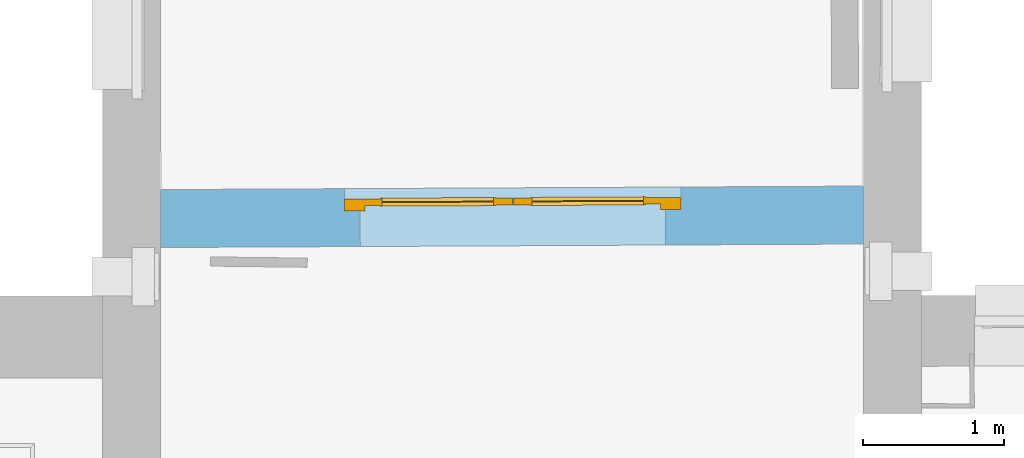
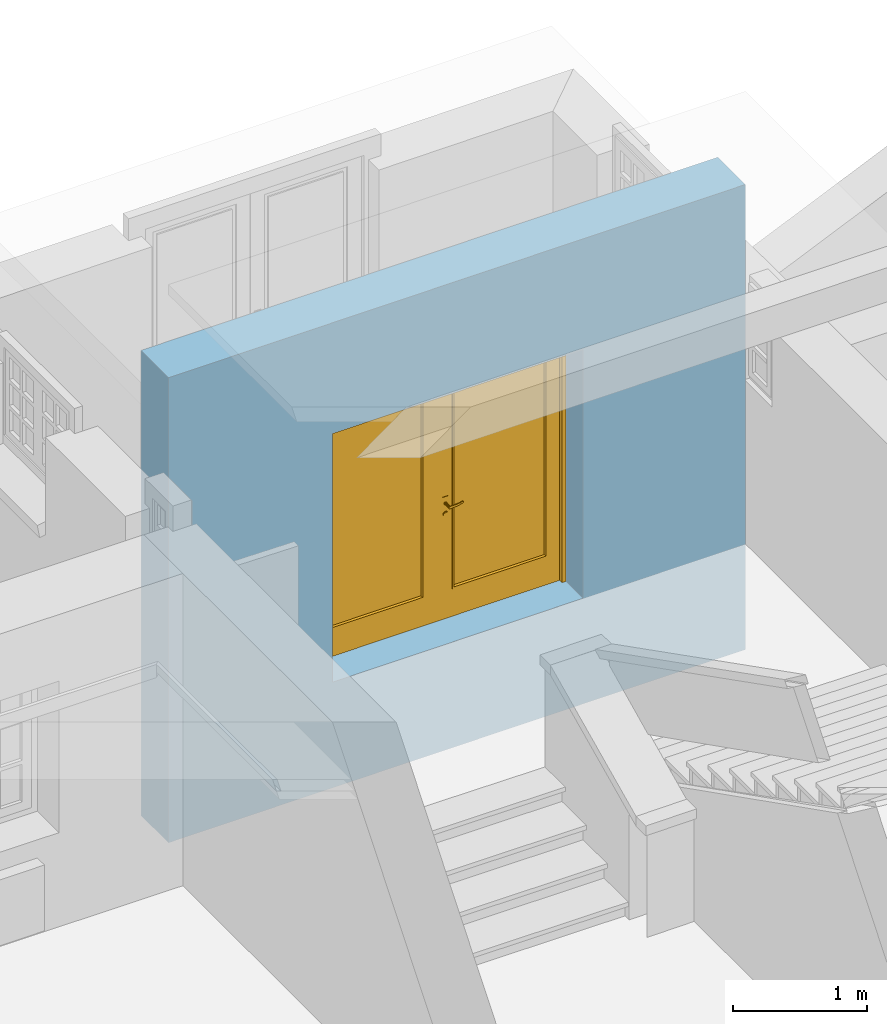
# One storey, part 93 of 196: 1 door, 1 opening, plus 1 element that does not belong to this part.
"""IFC2X3 building model written with IfcOpenShell, lengths in metres."""

from ifc_helpers import new_model, entity, si_unit, converted_unit, derived_unit, money_unit, direction, frame, origin_with_axes, origin_2d_with_axis, place, context, subcontext, project, spatial, polyline, rectangle, outline, extrude, open_shell, faceted_brep, surface_model, material, layer, layer_set, layer_usage, type_object, element, fill, save


model = new_model("IFC2X3")

# Units and contexts
model_context = context("Model", 3, precision=1e-05, world=origin_with_axes(), true_north=direction((0.0, 1.0)))
body_context = subcontext(model_context, "Body", "Model", "MODEL_VIEW")
ifc_project = project(units=[si_unit("LENGTHUNIT", "METRE"), si_unit("AREAUNIT", "SQUARE_METRE"), si_unit("VOLUMEUNIT", "CUBIC_METRE"), converted_unit("PLANEANGLEUNIT", "DEGREE", entity("IfcPlaneAngleMeasure", 0.0174532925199), si_unit("PLANEANGLEUNIT", "RADIAN"), dimensions=[0, 0, 0, 0, 0, 0, 0]), money_unit("EUR"), converted_unit("TIMEUNIT", "Year", entity("IfcTimeMeasure", 31556926.0), si_unit("TIMEUNIT", "SECOND"), dimensions=[0, 0, 1, 0, 0, 0, 0]), si_unit("MASSUNIT", "GRAM", prefix="KILO"), si_unit("THERMODYNAMICTEMPERATUREUNIT", "DEGREE_CELSIUS"), si_unit("LUMINOUSINTENSITYUNIT", "LUMEN"), si_unit("ENERGYUNIT", "JOULE", prefix="MEGA"), derived_unit("THERMALCONDUCTANCEUNIT", [(si_unit("POWERUNIT", "WATT"), 1), (si_unit("LENGTHUNIT", "METRE"), -1), (si_unit("THERMODYNAMICTEMPERATUREUNIT", "KELVIN"), -1)]), derived_unit("SPECIFICHEATCAPACITYUNIT", [(si_unit("ENERGYUNIT", "JOULE"), 1), (si_unit("MASSUNIT", "GRAM", prefix="KILO"), -1), (si_unit("THERMODYNAMICTEMPERATUREUNIT", "KELVIN"), -1)]), derived_unit("MASSDENSITYUNIT", [(si_unit("MASSUNIT", "GRAM", prefix="KILO"), 1), (si_unit("VOLUMEUNIT", "CUBIC_METRE"), -1)])], contexts=[model_context])

# Site, building, storey
site_placement = place(None, origin_with_axes())
site = spatial("IfcSite", under=ifc_project, at=site_placement, Name="Gelände", CompositionType="ELEMENT")
building_placement = place(site_placement, origin_with_axes())
building = spatial("IfcBuilding", under=site, at=building_placement, Name="Gebäude", CompositionType="ELEMENT")
storey_placement = place(building_placement, frame((0.0, 0.0, -3.0), z_axis=(0.0, 0.0, 1.0), x_axis=(1.0, 0.0, 0.0)))
storey = spatial("IfcBuildingStorey", under=building, at=storey_placement, Name="KELLERGESCHOSS", CompositionType="ELEMENT", Elevation=-3.0)

# Wall, opening, door
ifc_material = material(Name="05_ALLGEMEIN - TRAGENDE BAUTEILE")
ifc_layer = layer(ifc_material, 0.41, ventilated="UNKNOWN")
ifc_layer_set = layer_set([ifc_layer], Name="05_ALLGEMEIN - TRAGENDE BAUTEILE 0.41")
ifc_layer_usage = layer_usage(ifc_layer_set, "AXIS2", "NEGATIVE", 0.0)
wall_type = type_object("IfcWallType", Name="05_ALLGEMEIN - TRAGENDE BAUTEILE 410", PredefinedType="ELEMENTEDWALL")
wall_placement = place(storey_placement, frame((-4.46216448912, 26.4744580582, -0.36), z_axis=(0.0, 0.0, 1.0), x_axis=(-0.999987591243, -0.00498170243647, 0.0)))
wall = element("IfcWallStandardCase", 1, at=wall_placement, inside=storey, type_object=wall_type, material=ifc_layer_usage, Name="Wand-038", ObjectType="ELEMENTEDWALL", context=body_context, shape_type="SweptSolid", body=[
    extrude(outline(polyline([(0.407782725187, -0.41), (5.37805541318, -0.41), (5.38005934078, 0.0), (0.410006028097, 0.0), (0.407782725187, -0.41)])), origin_with_axes(), (0.0, 0.0, 1.0), 4.22357708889),
])
opening_placement = place(wall_placement, frame((2.88787034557, 0.0, 0.96), z_axis=(0.0, 0.0, 1.0), x_axis=(1.0, 0.0, 0.0)))
opening = element("IfcOpeningElement", 2, at=opening_placement, cuts=wall, Name="Tür-023", context=body_context, shape_type="SweptSolid", body=[
    extrude(rectangle(XDim=2.16005811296, YDim=2.25809052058, at=origin_2d_with_axis()), frame((0.0, -0.252197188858, 1.12904526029), z_axis=(0.0, -1.0, 0.0), x_axis=(-1.0, 0.0, 0.0)), (0.0, 0.0, -1.0), 0.662197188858),
    extrude(rectangle(XDim=2.38005811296, YDim=2.38809052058, at=origin_2d_with_axis()), frame((0.0, -0.337197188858, 1.19404526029), z_axis=(0.0, 1.0, 0.0), x_axis=(-1.0, 0.0, 0.0)), (0.0, 0.0, 1.0), 0.085),
    extrude(rectangle(XDim=2.38005811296, YDim=2.38809052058, at=origin_2d_with_axis()), frame((0.0, -0.337197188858, 1.19404526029), z_axis=(0.0, 1.0, 0.0), x_axis=(-1.0, 0.0, 0.0)), (0.0, 0.0, -1.0), 0.482802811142),
])
door_style = type_object("IfcDoorStyle", Name="Blockrahmentür 2-Fl 25", ConstructionType="NOTDEFINED", OperationType="DOUBLE_DOOR_SINGLE_SWING", ParameterTakesPrecedence=False, Sizeable=False)
door_placement = place(opening_placement, frame((1.04502905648, 0.0, 0.0), z_axis=(0.0, 0.0, 1.0), x_axis=(-1.0, 0.0, 0.0)))
door = element("IfcDoor", 3, at=door_placement, inside=storey, type_object=door_style, Name="Tür-023", ObjectType="NOTDEFINED", OverallHeight=2.38809, OverallWidth=2.38006, context=body_context, shape_type="SurfaceModel", body=[
    faceted_brep([(2.23505811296, 0.252197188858, 0.0), (2.23505811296, 0.289197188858, 0.0), (2.23505811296, 0.289197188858, 2.38809052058), (2.23505811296, 0.252197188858, 2.38809052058), (2.09005811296, 0.252197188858, 0.0), (2.09005811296, 0.289197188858, 0.0), (2.09005811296, 0.289197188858, 2.24309052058), (1.16012905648, 0.289197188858, 2.24309052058), (1.04512905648, 0.289197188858, 2.24309052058), (0.0, 0.289197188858, 2.24309052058), (0.0, 0.289197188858, 0.0), (-0.145, 0.289197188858, 0.0), (-0.145, 0.289197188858, 2.38809052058), (-0.145, 0.252197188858, 2.38809052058), (-0.145, 0.252197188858, 0.0), (0.0, 0.252197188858, 0.0), (0.0, 0.252197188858, 2.24309052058), (1.04512905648, 0.252197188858, 2.24309052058), (1.16012905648, 0.252197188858, 2.24309052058), (2.09005811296, 0.252197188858, 2.24309052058)], [[[0, 1, 2, 3]], [[4, 5, 1, 0]], [[1, 5, 6, 7, 8, 9, 10, 11, 12, 2]], [[3, 2, 12, 13]], [[0, 3, 13, 14, 15, 16, 17, 18, 19, 4]], [[19, 6, 5, 4]], [[18, 7, 6, 19]], [[17, 8, 7, 18]], [[16, 9, 8, 17]], [[15, 10, 9, 16]], [[14, 11, 10, 15]], [[13, 12, 11, 14]]]),
    faceted_brep([(2.23505811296, 0.289197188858, 0.0), (2.23505811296, 0.337197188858, 0.0), (2.23505811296, 0.337197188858, 2.38809052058), (2.23505811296, 0.289197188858, 2.38809052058), (2.10505811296, 0.289197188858, 0.0), (2.10505811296, 0.337197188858, 0.0), (2.10505811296, 0.337197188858, 2.25809052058), (1.14512905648, 0.337197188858, 2.25809052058), (1.06012905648, 0.337197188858, 2.25809052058), (-0.015, 0.337197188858, 2.25809052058), (-0.015, 0.337197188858, 0.0), (-0.145, 0.337197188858, 0.0), (-0.145, 0.337197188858, 2.38809052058), (-0.145, 0.289197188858, 2.38809052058), (-0.145, 0.289197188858, 0.0), (-0.015, 0.289197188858, 0.0), (-0.015, 0.289197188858, 2.25809052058), (1.06012905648, 0.289197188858, 2.25809052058), (1.14512905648, 0.289197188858, 2.25809052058), (2.10505811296, 0.289197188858, 2.25809052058)], [[[0, 1, 2, 3]], [[4, 5, 1, 0]], [[1, 5, 6, 7, 8, 9, 10, 11, 12, 2]], [[3, 2, 12, 13]], [[0, 3, 13, 14, 15, 16, 17, 18, 19, 4]], [[19, 6, 5, 4]], [[18, 7, 6, 19]], [[17, 8, 7, 18]], [[16, 9, 8, 17]], [[15, 10, 9, 16]], [[14, 11, 10, 15]], [[13, 12, 11, 14]]]),
    faceted_brep([(1.04552905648, 0.337197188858, 0.0), (2.10505811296, 0.337197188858, 0.0), (2.10505811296, 0.289197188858, 0.0), (1.04552905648, 0.289197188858, 0.0), (1.04552905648, 0.337197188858, 2.25809052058), (2.10505811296, 0.337197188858, 2.25809052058), (1.16552905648, 0.337197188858, 0.25), (1.98505811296, 0.337197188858, 0.25), (1.98505811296, 0.337197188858, 2.13809052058), (1.16552905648, 0.337197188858, 2.13809052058), (2.10505811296, 0.289197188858, 2.25809052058), (1.04552905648, 0.289197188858, 2.25809052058), (1.16552905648, 0.289197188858, 0.25), (1.16552905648, 0.289197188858, 2.13809052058), (1.98505811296, 0.289197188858, 2.13809052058), (1.98505811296, 0.289197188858, 0.25)], [[[0, 1, 2, 3]], [[0, 4, 5, 1], [6, 7, 8, 9]], [[1, 5, 10, 2]], [[3, 2, 10, 11], [12, 13, 14, 15]], [[4, 0, 3, 11]], [[5, 4, 11, 10]], [[7, 6, 12, 15]], [[8, 7, 15, 14]], [[9, 8, 14, 13]], [[6, 9, 13, 12]]]),
    faceted_brep([(1.16552905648, 0.342197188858, 0.25), (1.98505811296, 0.342197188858, 0.25), (1.98505811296, 0.284197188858, 0.25), (1.16552905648, 0.284197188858, 0.25), (1.16552905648, 0.342197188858, 2.13809052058), (1.98505811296, 0.342197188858, 2.13809052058), (1.18052905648, 0.342197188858, 0.265), (1.97005811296, 0.342197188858, 0.265), (1.97005811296, 0.342197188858, 2.12309052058), (1.18052905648, 0.342197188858, 2.12309052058), (1.98505811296, 0.284197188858, 2.13809052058), (1.16552905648, 0.284197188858, 2.13809052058), (1.18052905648, 0.284197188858, 0.265), (1.18052905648, 0.284197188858, 2.12309052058), (1.97005811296, 0.284197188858, 2.12309052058), (1.97005811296, 0.284197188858, 0.265)], [[[0, 1, 2, 3]], [[0, 4, 5, 1], [6, 7, 8, 9]], [[1, 5, 10, 2]], [[3, 2, 10, 11], [12, 13, 14, 15]], [[4, 0, 3, 11]], [[5, 4, 11, 10]], [[7, 6, 12, 15]], [[8, 7, 15, 14]], [[9, 8, 14, 13]], [[6, 9, 13, 12]]]),
    faceted_brep([(1.18052905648, 0.316697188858, 0.265), (1.97005811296, 0.316697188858, 0.265), (1.97005811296, 0.309697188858, 0.265), (1.18052905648, 0.309697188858, 0.265), (1.18052905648, 0.316697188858, 2.12309052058), (1.97005811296, 0.316697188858, 2.12309052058), (1.97005811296, 0.309697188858, 2.12309052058), (1.18052905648, 0.309697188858, 2.12309052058)], [[[0, 1, 2, 3]], [[0, 4, 5, 1]], [[1, 5, 6, 2]], [[3, 2, 6, 7]], [[4, 0, 3, 7]], [[5, 4, 7, 6]]]),
    faceted_brep([(1.07702905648, 0.289197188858, 1.11), (1.07702905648, 0.286197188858, 1.11), (1.13402905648, 0.286197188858, 1.11), (1.13402905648, 0.289197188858, 1.11), (1.07702905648, 0.289197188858, 0.92), (1.07702905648, 0.286197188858, 0.92), (1.13402905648, 0.286197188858, 0.92), (1.13402905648, 0.289197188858, 0.92)], [[[0, 1, 2, 3]], [[4, 5, 1, 0]], [[1, 5, 6, 2]], [[3, 2, 6, 7]], [[0, 3, 7, 4]], [[7, 6, 5, 4]]]),
    faceted_brep([(1.10552905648, 0.225197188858, 1.04), (1.10552905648, 0.218197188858, 1.04), (1.10052905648, 0.218197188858, 1.04133974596), (1.10052905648, 0.225197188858, 1.04133974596), (1.13052905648, 0.225197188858, 1.04), (1.13052905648, 0.218197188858, 1.04), (1.13052905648, 0.218197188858, 1.06), (1.10552905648, 0.218197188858, 1.06), (1.10052905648, 0.218197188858, 1.05866025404), (1.09686880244, 0.218197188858, 1.055), (1.09552905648, 0.218197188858, 1.05), (1.09686880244, 0.218197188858, 1.045), (1.09686880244, 0.225197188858, 1.045), (1.09552905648, 0.225197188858, 1.05), (1.09686880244, 0.225197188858, 1.055), (1.10052905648, 0.225197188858, 1.05866025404), (1.10552905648, 0.225197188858, 1.06), (1.13052905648, 0.225197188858, 1.06)], [[[0, 1, 2, 3]], [[4, 5, 1, 0]], [[1, 5, 6, 7, 8, 9, 10, 11, 2]], [[3, 2, 11, 12]], [[0, 3, 12, 13, 14, 15, 16, 17, 4]], [[17, 6, 5, 4]], [[16, 7, 6, 17]], [[15, 8, 7, 16]], [[14, 9, 8, 15]], [[13, 10, 9, 14]], [[12, 11, 10, 13]]]),
    surface_model("IfcShellBasedSurfaceModel", [(1.13052905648, 0.225197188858, 1.06), (1.14393296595, 0.218197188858, 1.05960730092), (1.14362733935, 0.225197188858, 1.05960730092), (1.13052905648, 0.218197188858, 1.06), (1.17063877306, 0.220533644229, 1.05882190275), (1.14362733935, 0.225197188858, 1.04039269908), (1.13052905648, 0.225197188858, 1.04), (1.13052905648, 0.218197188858, 1.04), (1.14393296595, 0.218197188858, 1.04039269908), (1.17063877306, 0.220533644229, 1.04117809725), (1.16972421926, 0.227480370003, 1.05882190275), (1.16972421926, 0.227480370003, 1.04117809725), (1.19703932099, 0.225188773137, 1.04196349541), (1.19703932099, 0.225188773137, 1.05803650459), (1.19552280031, 0.232029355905, 1.05803650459), (1.19552280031, 0.232029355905, 1.04196349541), (1.22293368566, 0.232127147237, 1.04274889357), (1.22293368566, 0.232127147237, 1.05725110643), (1.22082673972, 0.238809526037, 1.05725110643), (1.22082673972, 0.238809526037, 1.04274889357), (1.23099026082, 0.235059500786, 1.043), (1.23099026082, 0.235059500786, 1.057), (1.22869961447, 0.241675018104, 1.057), (1.22869961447, 0.241675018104, 1.043)], [open_shell([[[0, 1, 2]], [[0, 3, 1]], [[2, 1, 4]], [[0, 2, 5, 6]], [[3, 7, 8, 1]], [[1, 8, 9, 4]], [[2, 4, 10]], [[2, 10, 11, 5]], [[5, 7, 6]], [[5, 8, 7]], [[11, 9, 8]], [[4, 9, 12, 13]], [[10, 4, 13]], [[10, 14, 15, 11]], [[11, 8, 5]], [[15, 9, 11]], [[15, 12, 9]], [[13, 12, 16, 17]], [[10, 13, 14]], [[14, 18, 19, 15]], [[19, 12, 15]], [[19, 16, 12]], [[17, 16, 20, 21]], [[14, 13, 17]], [[14, 17, 18]], [[18, 22, 23, 19]], [[23, 16, 19]], [[23, 20, 16]], [[22, 21, 20, 23]], [[18, 17, 21]], [[18, 21, 22]]])]),
    faceted_brep([(1.11592136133, 0.276197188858, 1.044), (1.11678738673, 0.286197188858, 1.0435), (1.11852905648, 0.286197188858, 1.05), (1.11752905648, 0.276197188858, 1.05), (1.11152905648, 0.276197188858, 1.03960769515), (1.11202905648, 0.286197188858, 1.03874166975), (1.10552905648, 0.286197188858, 1.037), (1.09902905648, 0.286197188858, 1.03874166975), (1.09427072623, 0.286197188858, 1.0435), (1.09252905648, 0.286197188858, 1.05), (1.09427072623, 0.286197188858, 1.0565), (1.09902905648, 0.286197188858, 1.06125833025), (1.10552905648, 0.286197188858, 1.063), (1.11202905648, 0.286197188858, 1.06125833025), (1.11678738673, 0.286197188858, 1.0565), (1.11592136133, 0.276197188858, 1.056), (1.11152905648, 0.276197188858, 1.06039230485), (1.10552905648, 0.276197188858, 1.062), (1.09952905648, 0.276197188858, 1.06039230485), (1.09513675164, 0.276197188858, 1.056), (1.09352905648, 0.276197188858, 1.05), (1.09513675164, 0.276197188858, 1.044), (1.09952905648, 0.276197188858, 1.03960769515), (1.10552905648, 0.276197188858, 1.038)], [[[0, 1, 2, 3]], [[4, 5, 1, 0]], [[2, 1, 5, 6, 7, 8, 9, 10, 11, 12, 13, 14]], [[3, 2, 14, 15]], [[3, 15, 16, 17, 18, 19, 20, 21, 22, 23, 4, 0]], [[23, 6, 5, 4]], [[22, 7, 6, 23]], [[21, 8, 7, 22]], [[20, 9, 8, 21]], [[19, 10, 9, 20]], [[18, 11, 10, 19]], [[17, 12, 11, 18]], [[16, 13, 12, 17]], [[15, 14, 13, 16]]]),
    faceted_brep([(1.12284956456, 0.282197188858, 0.945), (1.12458161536, 0.286197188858, 0.944), (1.12752905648, 0.286197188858, 0.955), (1.12552905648, 0.282197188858, 0.955), (1.11552905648, 0.282197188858, 0.937679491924), (1.11652905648, 0.286197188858, 0.935947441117), (1.10552905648, 0.286197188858, 0.933), (1.09452905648, 0.286197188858, 0.935947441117), (1.0864764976, 0.286197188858, 0.944), (1.08352905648, 0.286197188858, 0.955), (1.0864764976, 0.286197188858, 0.966), (1.09452905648, 0.286197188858, 0.974052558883), (1.10552905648, 0.286197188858, 0.977), (1.11652905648, 0.286197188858, 0.974052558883), (1.12458161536, 0.286197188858, 0.966), (1.12284956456, 0.282197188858, 0.965), (1.11552905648, 0.282197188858, 0.972320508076), (1.10552905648, 0.282197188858, 0.975), (1.09552905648, 0.282197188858, 0.972320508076), (1.08820854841, 0.282197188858, 0.965), (1.08552905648, 0.282197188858, 0.955), (1.08820854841, 0.282197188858, 0.945), (1.09552905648, 0.282197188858, 0.937679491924), (1.10552905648, 0.282197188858, 0.935)], [[[0, 1, 2, 3]], [[4, 5, 1, 0]], [[2, 1, 5, 6, 7, 8, 9, 10, 11, 12, 13, 14]], [[3, 2, 14, 15]], [[3, 15, 16, 17, 18, 19, 20, 21, 22, 23, 4, 0]], [[23, 6, 5, 4]], [[22, 7, 6, 23]], [[21, 8, 7, 22]], [[20, 9, 8, 21]], [[19, 10, 9, 20]], [[18, 11, 10, 19]], [[17, 12, 11, 18]], [[16, 13, 12, 17]], [[15, 14, 13, 16]]]),
    faceted_brep([(1.11047880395, 0.280197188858, 0.959050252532), (1.11118591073, 0.282197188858, 0.958343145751), (1.11352905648, 0.282197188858, 0.964), (1.11252905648, 0.280197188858, 0.964), (1.10552905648, 0.280197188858, 0.957), (1.10552905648, 0.282197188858, 0.956), (1.09987220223, 0.282197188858, 0.958343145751), (1.09752905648, 0.282197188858, 0.964), (1.09987220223, 0.282197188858, 0.969656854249), (1.10552905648, 0.282197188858, 0.972), (1.11118591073, 0.282197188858, 0.969656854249), (1.11047880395, 0.280197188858, 0.968949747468), (1.10552905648, 0.280197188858, 0.971), (1.10057930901, 0.280197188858, 0.968949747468), (1.09852905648, 0.280197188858, 0.964), (1.10057930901, 0.280197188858, 0.959050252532)], [[[0, 1, 2, 3]], [[4, 5, 1, 0]], [[2, 1, 5, 6, 7, 8, 9, 10]], [[3, 2, 10, 11]], [[3, 11, 12, 13, 14, 15, 4, 0]], [[15, 6, 5, 4]], [[14, 7, 6, 15]], [[13, 8, 7, 14]], [[12, 9, 8, 13]], [[11, 10, 9, 12]]]),
    faceted_brep([(1.10552905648, 0.276197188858, 1.06), (1.10552905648, 0.225197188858, 1.06), (1.11052905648, 0.225197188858, 1.05866025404), (1.11052905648, 0.276197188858, 1.05866025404), (1.10052905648, 0.276197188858, 1.05866025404), (1.10052905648, 0.225197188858, 1.05866025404), (1.09686880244, 0.225197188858, 1.055), (1.09552905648, 0.225197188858, 1.05), (1.09686880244, 0.225197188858, 1.045), (1.10052905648, 0.225197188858, 1.04133974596), (1.10552905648, 0.225197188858, 1.04), (1.11052905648, 0.225197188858, 1.04133974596), (1.11418931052, 0.225197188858, 1.045), (1.11552905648, 0.225197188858, 1.05), (1.11418931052, 0.225197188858, 1.055), (1.11418931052, 0.276197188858, 1.055), (1.11552905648, 0.276197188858, 1.05), (1.11418931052, 0.276197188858, 1.045), (1.11052905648, 0.276197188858, 1.04133974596), (1.10552905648, 0.276197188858, 1.04), (1.10052905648, 0.276197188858, 1.04133974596), (1.09686880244, 0.276197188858, 1.045), (1.09552905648, 0.276197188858, 1.05), (1.09686880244, 0.276197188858, 1.055)], [[[0, 1, 2, 3]], [[4, 5, 1, 0]], [[1, 5, 6, 7, 8, 9, 10, 11, 12, 13, 14, 2]], [[3, 2, 14, 15]], [[0, 3, 15, 16, 17, 18, 19, 20, 21, 22, 23, 4]], [[23, 6, 5, 4]], [[22, 7, 6, 23]], [[21, 8, 7, 22]], [[20, 9, 8, 21]], [[19, 10, 9, 20]], [[18, 11, 10, 19]], [[17, 12, 11, 18]], [[16, 13, 12, 17]], [[15, 14, 13, 16]]]),
    faceted_brep([(1.07702905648, 0.337197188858, 1.11), (1.13402905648, 0.337197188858, 1.11), (1.13402905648, 0.340197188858, 1.11), (1.07702905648, 0.340197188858, 1.11), (1.07702905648, 0.337197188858, 0.92), (1.13402905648, 0.337197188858, 0.92), (1.13402905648, 0.340197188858, 0.92), (1.07702905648, 0.340197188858, 0.92)], [[[0, 1, 2, 3]], [[0, 4, 5, 1]], [[1, 5, 6, 2]], [[3, 2, 6, 7]], [[4, 0, 3, 7]], [[5, 4, 7, 6]]]),
    faceted_brep([(1.10552905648, 0.401197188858, 1.04), (1.10052905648, 0.401197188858, 1.04133974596), (1.10052905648, 0.408197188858, 1.04133974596), (1.10552905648, 0.408197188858, 1.04), (1.13052905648, 0.401197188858, 1.04), (1.13052905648, 0.401197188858, 1.06), (1.10552905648, 0.401197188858, 1.06), (1.10052905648, 0.401197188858, 1.05866025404), (1.09686880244, 0.401197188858, 1.055), (1.09552905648, 0.401197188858, 1.05), (1.09686880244, 0.401197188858, 1.045), (1.09686880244, 0.408197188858, 1.045), (1.09552905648, 0.408197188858, 1.05), (1.09686880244, 0.408197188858, 1.055), (1.10052905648, 0.408197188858, 1.05866025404), (1.10552905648, 0.408197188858, 1.06), (1.13052905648, 0.408197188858, 1.06), (1.13052905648, 0.408197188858, 1.04)], [[[0, 1, 2, 3]], [[0, 4, 5, 6, 7, 8, 9, 10, 1]], [[1, 10, 11, 2]], [[3, 2, 11, 12, 13, 14, 15, 16, 17]], [[4, 0, 3, 17]], [[5, 4, 17, 16]], [[6, 5, 16, 15]], [[7, 6, 15, 14]], [[8, 7, 14, 13]], [[9, 8, 13, 12]], [[10, 9, 12, 11]]]),
    surface_model("IfcShellBasedSurfaceModel", [(1.13052905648, 0.401197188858, 1.06), (1.14362733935, 0.401197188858, 1.05960730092), (1.14393296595, 0.408197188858, 1.05960730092), (1.13052905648, 0.401197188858, 1.04), (1.14362733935, 0.401197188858, 1.04039269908), (1.17063877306, 0.405860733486, 1.05882190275), (1.13052905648, 0.408197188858, 1.06), (1.13052905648, 0.408197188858, 1.04), (1.16972421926, 0.398914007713, 1.04117809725), (1.16972421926, 0.398914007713, 1.05882190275), (1.17063877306, 0.405860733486, 1.04117809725), (1.14393296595, 0.408197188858, 1.04039269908), (1.19552280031, 0.39436502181, 1.04196349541), (1.19552280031, 0.39436502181, 1.05803650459), (1.19703932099, 0.401205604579, 1.05803650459), (1.19703932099, 0.401205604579, 1.04196349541), (1.22082673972, 0.387584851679, 1.04274889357), (1.22082673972, 0.387584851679, 1.05725110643), (1.22293368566, 0.394267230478, 1.05725110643), (1.22293368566, 0.394267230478, 1.04274889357), (1.22869961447, 0.384719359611, 1.043), (1.22869961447, 0.384719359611, 1.057), (1.23099026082, 0.391334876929, 1.057), (1.23099026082, 0.391334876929, 1.043)], [open_shell([[[0, 1, 2]], [[0, 3, 4, 1]], [[1, 5, 2]], [[0, 2, 6]], [[4, 3, 7]], [[1, 4, 8, 9]], [[1, 9, 5]], [[2, 5, 10, 11]], [[6, 2, 11, 7]], [[4, 7, 11]], [[8, 4, 11]], [[9, 8, 12, 13]], [[9, 14, 5]], [[5, 14, 15, 10]], [[8, 11, 10]], [[12, 8, 10]], [[13, 12, 16, 17]], [[9, 13, 14]], [[14, 18, 19, 15]], [[12, 10, 15]], [[16, 12, 15]], [[17, 16, 20, 21]], [[13, 17, 18]], [[13, 18, 14]], [[18, 22, 23, 19]], [[16, 15, 19]], [[20, 16, 19]], [[21, 20, 23, 22]], [[17, 21, 22]], [[17, 22, 18]], [[20, 19, 23]]])]),
    faceted_brep([(1.11592136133, 0.350197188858, 1.044), (1.11752905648, 0.350197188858, 1.05), (1.11852905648, 0.340197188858, 1.05), (1.11678738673, 0.340197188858, 1.0435), (1.11152905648, 0.350197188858, 1.03960769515), (1.10552905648, 0.350197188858, 1.038), (1.09952905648, 0.350197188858, 1.03960769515), (1.09513675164, 0.350197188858, 1.044), (1.09352905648, 0.350197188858, 1.05), (1.09513675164, 0.350197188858, 1.056), (1.09952905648, 0.350197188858, 1.06039230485), (1.10552905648, 0.350197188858, 1.062), (1.11152905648, 0.350197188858, 1.06039230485), (1.11592136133, 0.350197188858, 1.056), (1.11678738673, 0.340197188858, 1.0565), (1.11202905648, 0.340197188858, 1.06125833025), (1.10552905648, 0.340197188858, 1.063), (1.09902905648, 0.340197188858, 1.06125833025), (1.09427072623, 0.340197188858, 1.0565), (1.09252905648, 0.340197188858, 1.05), (1.09427072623, 0.340197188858, 1.0435), (1.09902905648, 0.340197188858, 1.03874166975), (1.10552905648, 0.340197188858, 1.037), (1.11202905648, 0.340197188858, 1.03874166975)], [[[0, 1, 2, 3]], [[1, 0, 4, 5, 6, 7, 8, 9, 10, 11, 12, 13]], [[1, 13, 14, 2]], [[2, 14, 15, 16, 17, 18, 19, 20, 21, 22, 23, 3]], [[4, 0, 3, 23]], [[5, 4, 23, 22]], [[6, 5, 22, 21]], [[7, 6, 21, 20]], [[8, 7, 20, 19]], [[9, 8, 19, 18]], [[10, 9, 18, 17]], [[11, 10, 17, 16]], [[12, 11, 16, 15]], [[13, 12, 15, 14]]]),
    faceted_brep([(1.12284956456, 0.344197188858, 0.945), (1.12552905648, 0.344197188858, 0.955), (1.12752905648, 0.340197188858, 0.955), (1.12458161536, 0.340197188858, 0.944), (1.11552905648, 0.344197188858, 0.937679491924), (1.10552905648, 0.344197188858, 0.935), (1.09552905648, 0.344197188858, 0.937679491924), (1.08820854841, 0.344197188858, 0.945), (1.08552905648, 0.344197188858, 0.955), (1.08820854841, 0.344197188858, 0.965), (1.09552905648, 0.344197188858, 0.972320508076), (1.10552905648, 0.344197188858, 0.975), (1.11552905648, 0.344197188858, 0.972320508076), (1.12284956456, 0.344197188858, 0.965), (1.12458161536, 0.340197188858, 0.966), (1.11652905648, 0.340197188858, 0.974052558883), (1.10552905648, 0.340197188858, 0.977), (1.09452905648, 0.340197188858, 0.974052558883), (1.0864764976, 0.340197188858, 0.966), (1.08352905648, 0.340197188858, 0.955), (1.0864764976, 0.340197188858, 0.944), (1.09452905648, 0.340197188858, 0.935947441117), (1.10552905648, 0.340197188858, 0.933), (1.11652905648, 0.340197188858, 0.935947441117)], [[[0, 1, 2, 3]], [[1, 0, 4, 5, 6, 7, 8, 9, 10, 11, 12, 13]], [[1, 13, 14, 2]], [[2, 14, 15, 16, 17, 18, 19, 20, 21, 22, 23, 3]], [[4, 0, 3, 23]], [[5, 4, 23, 22]], [[6, 5, 22, 21]], [[7, 6, 21, 20]], [[8, 7, 20, 19]], [[9, 8, 19, 18]], [[10, 9, 18, 17]], [[11, 10, 17, 16]], [[12, 11, 16, 15]], [[13, 12, 15, 14]]]),
    faceted_brep([(1.11047880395, 0.346197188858, 0.959050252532), (1.11252905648, 0.346197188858, 0.964), (1.11352905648, 0.344197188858, 0.964), (1.11118591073, 0.344197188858, 0.958343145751), (1.10552905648, 0.346197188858, 0.957), (1.10057930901, 0.346197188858, 0.959050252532), (1.09852905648, 0.346197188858, 0.964), (1.10057930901, 0.346197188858, 0.968949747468), (1.10552905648, 0.346197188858, 0.971), (1.11047880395, 0.346197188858, 0.968949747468), (1.11118591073, 0.344197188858, 0.969656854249), (1.10552905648, 0.344197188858, 0.972), (1.09987220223, 0.344197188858, 0.969656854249), (1.09752905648, 0.344197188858, 0.964), (1.09987220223, 0.344197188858, 0.958343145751), (1.10552905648, 0.344197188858, 0.956)], [[[0, 1, 2, 3]], [[1, 0, 4, 5, 6, 7, 8, 9]], [[1, 9, 10, 2]], [[2, 10, 11, 12, 13, 14, 15, 3]], [[4, 0, 3, 15]], [[5, 4, 15, 14]], [[6, 5, 14, 13]], [[7, 6, 13, 12]], [[8, 7, 12, 11]], [[9, 8, 11, 10]]]),
    faceted_brep([(1.10552905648, 0.350197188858, 1.06), (1.11052905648, 0.350197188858, 1.05866025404), (1.11052905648, 0.401197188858, 1.05866025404), (1.10552905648, 0.401197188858, 1.06), (1.10052905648, 0.350197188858, 1.05866025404), (1.09686880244, 0.350197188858, 1.055), (1.09552905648, 0.350197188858, 1.05), (1.09686880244, 0.350197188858, 1.045), (1.10052905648, 0.350197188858, 1.04133974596), (1.10552905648, 0.350197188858, 1.04), (1.11052905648, 0.350197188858, 1.04133974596), (1.11418931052, 0.350197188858, 1.045), (1.11552905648, 0.350197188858, 1.05), (1.11418931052, 0.350197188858, 1.055), (1.11418931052, 0.401197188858, 1.055), (1.11552905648, 0.401197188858, 1.05), (1.11418931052, 0.401197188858, 1.045), (1.11052905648, 0.401197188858, 1.04133974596), (1.10552905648, 0.401197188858, 1.04), (1.10052905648, 0.401197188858, 1.04133974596), (1.09686880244, 0.401197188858, 1.045), (1.09552905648, 0.401197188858, 1.05), (1.09686880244, 0.401197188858, 1.055), (1.10052905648, 0.401197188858, 1.05866025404)], [[[0, 1, 2, 3]], [[0, 4, 5, 6, 7, 8, 9, 10, 11, 12, 13, 1]], [[1, 13, 14, 2]], [[3, 2, 14, 15, 16, 17, 18, 19, 20, 21, 22, 23]], [[4, 0, 3, 23]], [[5, 4, 23, 22]], [[6, 5, 22, 21]], [[7, 6, 21, 20]], [[8, 7, 20, 19]], [[9, 8, 19, 18]], [[10, 9, 18, 17]], [[11, 10, 17, 16]], [[12, 11, 16, 15]], [[13, 12, 15, 14]]]),
    faceted_brep([(1.04452905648, 0.337197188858, 0.0), (1.04452905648, 0.289197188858, 0.0), (-0.015, 0.289197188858, 0.0), (-0.015, 0.337197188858, 0.0), (1.04452905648, 0.337197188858, 2.25809052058), (1.04452905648, 0.289197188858, 2.25809052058), (-0.015, 0.289197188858, 2.25809052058), (0.924529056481, 0.289197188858, 0.25), (0.105, 0.289197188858, 0.25), (0.105, 0.289197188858, 2.13809052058), (0.924529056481, 0.289197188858, 2.13809052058), (-0.015, 0.337197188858, 2.25809052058), (0.924529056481, 0.337197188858, 0.25), (0.924529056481, 0.337197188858, 2.13809052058), (0.105, 0.337197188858, 2.13809052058), (0.105, 0.337197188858, 0.25)], [[[0, 1, 2, 3]], [[4, 5, 1, 0]], [[1, 5, 6, 2], [7, 8, 9, 10]], [[3, 2, 6, 11]], [[0, 3, 11, 4], [12, 13, 14, 15]], [[11, 6, 5, 4]], [[15, 8, 7, 12]], [[14, 9, 8, 15]], [[13, 10, 9, 14]], [[12, 7, 10, 13]]]),
    faceted_brep([(0.924529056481, 0.342197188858, 0.25), (0.924529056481, 0.284197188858, 0.25), (0.105, 0.284197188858, 0.25), (0.105, 0.342197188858, 0.25), (0.924529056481, 0.342197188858, 2.13809052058), (0.924529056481, 0.284197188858, 2.13809052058), (0.105, 0.284197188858, 2.13809052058), (0.909529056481, 0.284197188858, 0.265), (0.12, 0.284197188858, 0.265), (0.12, 0.284197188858, 2.12309052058), (0.909529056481, 0.284197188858, 2.12309052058), (0.105, 0.342197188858, 2.13809052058), (0.909529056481, 0.342197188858, 0.265), (0.909529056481, 0.342197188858, 2.12309052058), (0.12, 0.342197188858, 2.12309052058), (0.12, 0.342197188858, 0.265)], [[[0, 1, 2, 3]], [[4, 5, 1, 0]], [[1, 5, 6, 2], [7, 8, 9, 10]], [[3, 2, 6, 11]], [[0, 3, 11, 4], [12, 13, 14, 15]], [[11, 6, 5, 4]], [[15, 8, 7, 12]], [[14, 9, 8, 15]], [[13, 10, 9, 14]], [[12, 7, 10, 13]]]),
    faceted_brep([(0.909529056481, 0.316697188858, 0.265), (0.909529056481, 0.309697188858, 0.265), (0.12, 0.309697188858, 0.265), (0.12, 0.316697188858, 0.265), (0.909529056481, 0.316697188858, 2.12309052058), (0.909529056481, 0.309697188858, 2.12309052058), (0.12, 0.309697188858, 2.12309052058), (0.12, 0.316697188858, 2.12309052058)], [[[0, 1, 2, 3]], [[4, 5, 1, 0]], [[1, 5, 6, 2]], [[3, 2, 6, 7]], [[0, 3, 7, 4]], [[7, 6, 5, 4]]]),
])
fill(opening, door)

save(model, "model.ifc")
